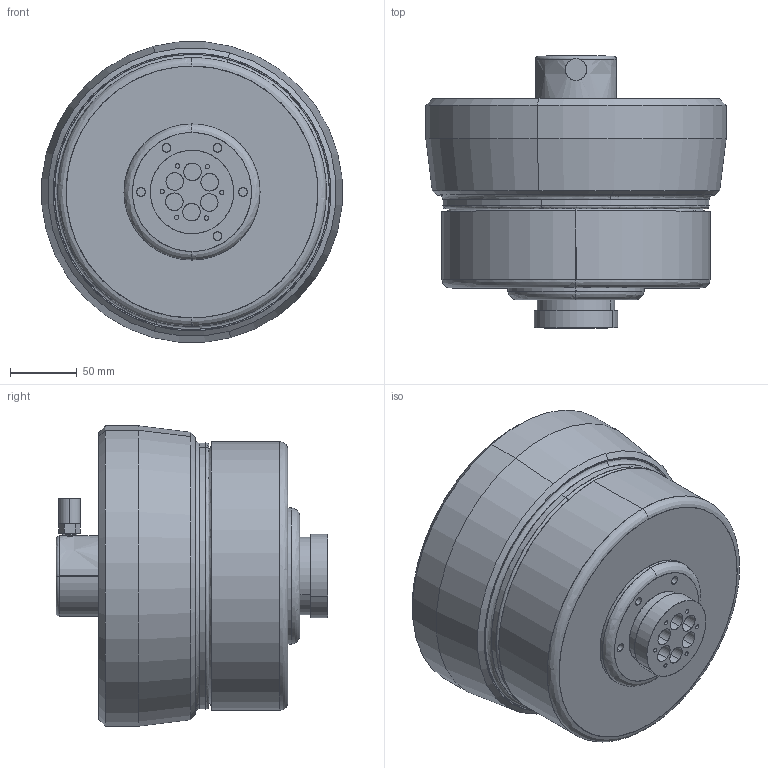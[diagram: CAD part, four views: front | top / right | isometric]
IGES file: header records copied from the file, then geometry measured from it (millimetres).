
Start section: SolidWorks IGES file using analytic representation for surfaces
Global section: file name: \\server\Users\Karen.Bodily\My Documents\DBH140 top mount.IGS; native system: SolidWorks 2012; preprocessor: SolidWorks 2012; author: karen.bodily; date: 130919.141651; units: inch
Bounding box: 224.37 x 203.12 x 224.37 mm (x, y, z)
Surface area: 191703.9 mm2 (no closed solid volume)
Topology: 0 solids, 0 shells, 153 faces, 3828 edges, 3828 vertices
Faces by surface type: revolution 91, bspline 62
